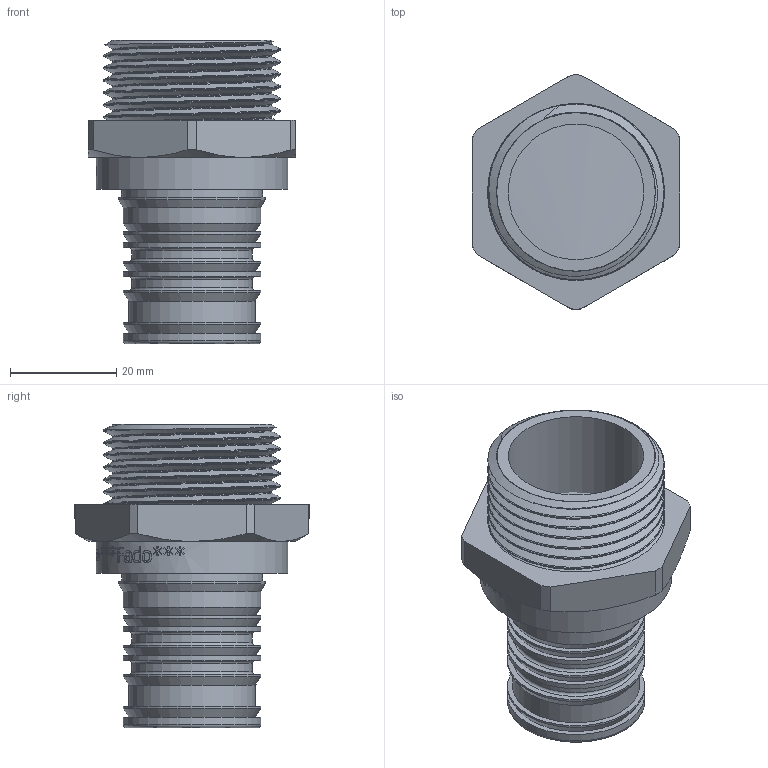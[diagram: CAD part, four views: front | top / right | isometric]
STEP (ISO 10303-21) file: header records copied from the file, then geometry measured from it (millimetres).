
FILE_DESCRIPTION(/* description */ (''),/* implementation_level */ '2;1');
FILE_NAME(/* name */ 'C:\Users\Doom\Desktop\Фадотех\Пресс\HDM27 15.01.2020\HDM27 15.01.2020.stp',/* time_stamp */ '2022-08-12T11:37:32+03:00',/* author */ ('Doom'),/* organization */ (''),/* preprocessor_version */ 'ST-DEVELOPER v18',/* originating_system */ 'Autodesk Inventor 2020',/* authorisation */ '');
FILE_SCHEMA (('AUTOMOTIVE_DESIGN { 1 0 10303 214 3 1 1 }'));
Length unit declared in the file: millimetre
Products named in the file (1): HDM18 15.01.2020
Bounding box: 39 x 44 x 57 mm (x, y, z)
Volume: 19470.3 mm3; surface area: 18412 mm2
Topology: 2 solids, 2 shells, 525 faces, 1460 edges, 984 vertices
Faces by surface type: bspline 329, plane 112, cylinder 66, cone 13, torus 5
Full cylindrical faces by diameter (mm): 19.5 x1, 22.6 x2, 23.8 x1, 25.5 x1, 25.8 x8, 26.5 x1, 27.5 x1, 29.776 x2, 33.2 x9, 36 x1
Entity records: 27274 total; most frequent: CARTESIAN_POINT 15846, ORIENTED_EDGE 2920, EDGE_CURVE 1460, DIRECTION 1385, VERTEX_POINT 984, B_SPLINE_CURVE_WITH_KNOTS 689, EDGE_LOOP 574, LINE 531
